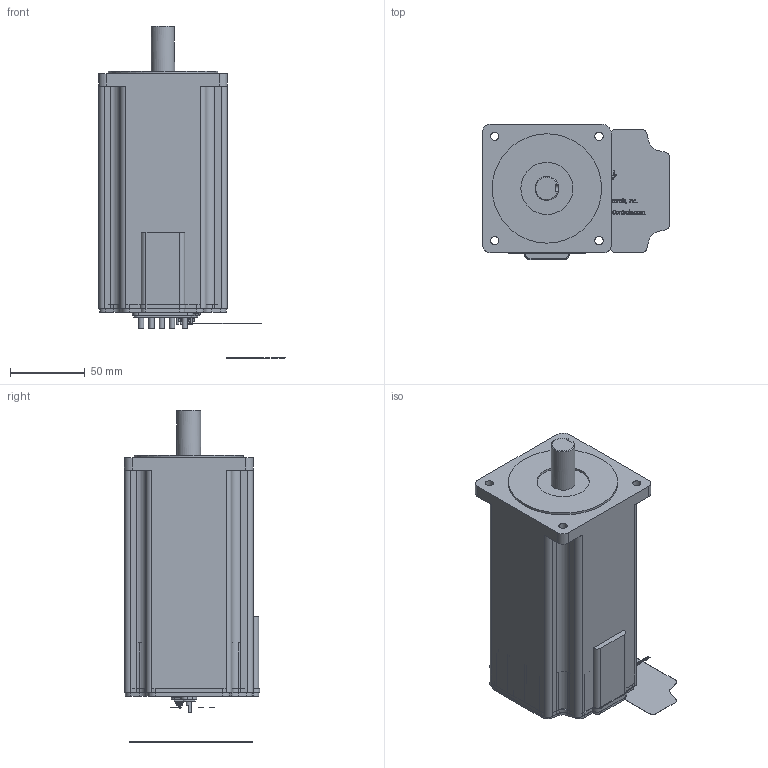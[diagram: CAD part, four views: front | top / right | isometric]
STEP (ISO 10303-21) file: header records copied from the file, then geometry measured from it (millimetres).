
FILE_DESCRIPTION(/* description */ ('Alibre Inc.'),/* implementation_level */ '2;1');
FILE_NAME(/* name */ 'export0',/* time_stamp */ '2008-02-05T14:19:24-08:00',/* author */ (''),/* organization */ (''),/* preprocessor_version */ 'ST-DEVELOPER v10',/* originating_system */ 'Alibre',/* authorisation */ '');
FILE_SCHEMA (('ALIBRE_SCHEMA','CONFIG_CONTROL_DESIGN'));
Length unit declared in the file: inch
Products named in the file (11): ID_1
Bounding box: 124.92 x 90.42 x 221.62 mm (x, y, z)
Volume: 1086194.2 mm3; surface area: 119306.9 mm2
Topology: 63 solids, 64 shells, 2051 faces, 5333 edges, 3495 vertices
Faces by surface type: plane 996, bspline 641, cylinder 358, torus 50, cone 6
Full cylindrical faces by diameter (mm): 2.489 x1, 2.794 x5, 2.87 x1, 3.048 x6, 3.556 x15, 5.537 x4, 9.525 x2, 15.875 x1, 25.4 x1, 34.798 x1, 73.025 x1
Entity records: 124729 total; most frequent: CARTESIAN_POINT 36180, ORIENTED_EDGE 13338, DIRECTION 9379, EDGE_CURVE 6661, CONSTRAINTPAIRUV 5249, VECTOR 4937, PERSISTANTTOPOLOGYATTRIBUTE 4687, LINE 4547
